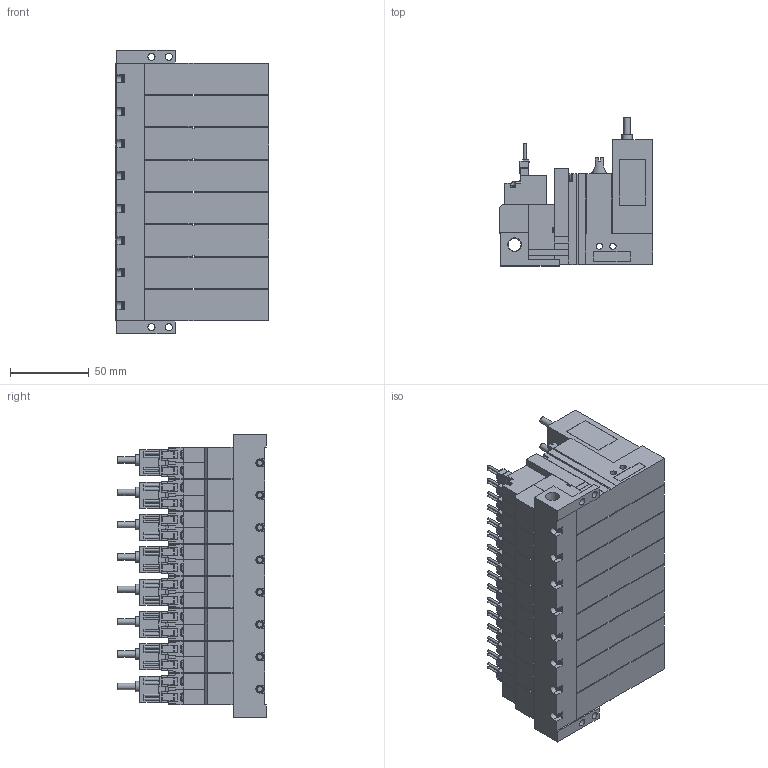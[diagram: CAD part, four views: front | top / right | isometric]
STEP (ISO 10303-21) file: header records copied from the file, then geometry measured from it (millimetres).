
FILE_DESCRIPTION(('STEP AP203'),'1');
FILE_NAME('VG_VGPLC5BLR808.stp','2025-02-25T05:22:54',(' '),(' '),'Spatial InterOp 3D',' ',' ');
FILE_SCHEMA(('CONFIG_CONTROL_DESIGN'));
Length unit declared in the file: millimetre
Products named in the file (5): BMC22M※※※※VG_VGPLC5BLR808; Solenoid valve B; Pressure sensor VGLC; Unit LC; Base MR80R
Assembly tree (25 placements, depth 2):
  BMC22M※※※※VG_VGPLC5BLR808
    Solenoid valve B  x8
    Pressure sensor VGLC  x8
    Unit LC  x8
    Base MR80R
Bounding box: 97.6 x 94 x 179.5 mm (x, y, z)
Volume: 891773.6 mm3; surface area: 227464.8 mm2
Topology: 25 solids, 25 shells, 3149 faces, 8435 edges, 5560 vertices
Faces by surface type: plane 2670, cylinder 381, cone 58, torus 40
Full cylindrical faces by diameter (mm): 1.4 x32, 2.5 x24, 3 x32, 3.5 x32, 3.6 x8, 4 x48, 4.134 x8, 4.5 x4, 5.2 x8, 6 x8, 6.5 x8, 6.6 x8, 8.279 x1
Entity records: 16162 total; most frequent: CARTESIAN_POINT 3162, DIRECTION 2584, ORIENTED_EDGE 2464, EDGE_CURVE 1232, LINE 966, VECTOR 966, VERTEX_POINT 871, AXIS2_PLACEMENT_3D 809
